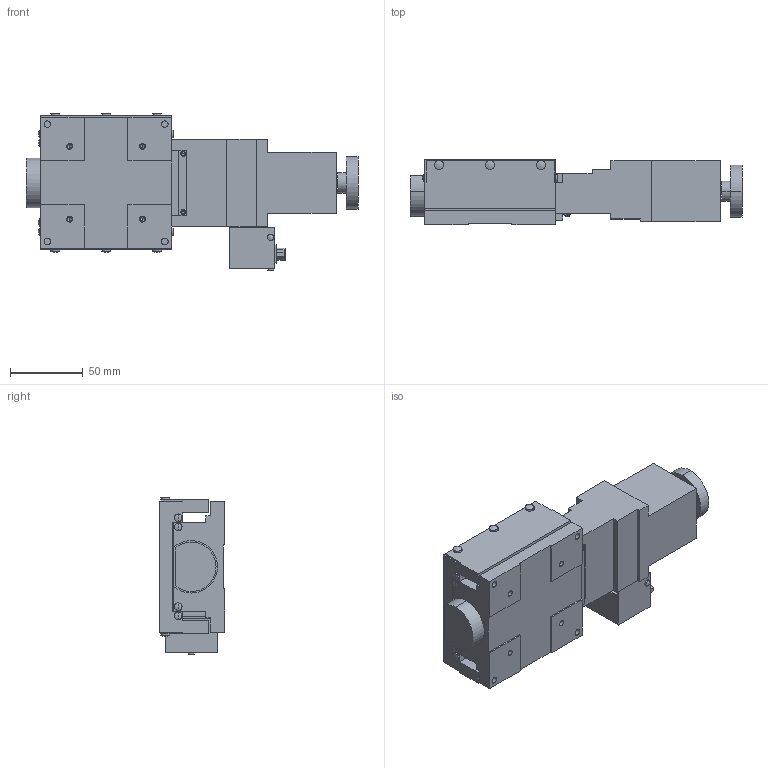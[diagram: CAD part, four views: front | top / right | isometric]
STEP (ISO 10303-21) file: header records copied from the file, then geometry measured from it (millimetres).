
FILE_DESCRIPTION (( 'STEP AP203' ), '1' );
FILE_NAME ('ALS-904-H1PC.STEP', '2016-06-07T06:20:50', ( '' ), ( '' ), 'SwSTEP 2.0', 'SolidWorks 2011', '' );
FILE_SCHEMA (( 'CONFIG_CONTROL_DESIGN' ));
Length unit declared in the file: millimetre
Products named in the file (3): ALS-904-H1PC; ALS-904-H1PC-2; ALS-904-H1PC-1
Assembly tree (2 placements, depth 2):
  ALS-904-H1PC
    ALS-904-H1PC-1
    ALS-904-H1PC-2
Bounding box: 228 x 45 x 108.26 mm (x, y, z)
Volume: 580230.7 mm3; surface area: 98610.4 mm2
Topology: 2 solids, 3 shells, 415 faces, 1019 edges, 660 vertices
Faces by surface type: plane 187, cylinder 143, cone 52, sphere 20, bspline 9, torus 4
Entity records: 14474 total; most frequent: CARTESIAN_POINT 4044, DIRECTION 2189, ORIENTED_EDGE 2022, EDGE_CURVE 1011, AXIS2_PLACEMENT_3D 795, VERTEX_POINT 660, VECTOR 599, LINE 599
